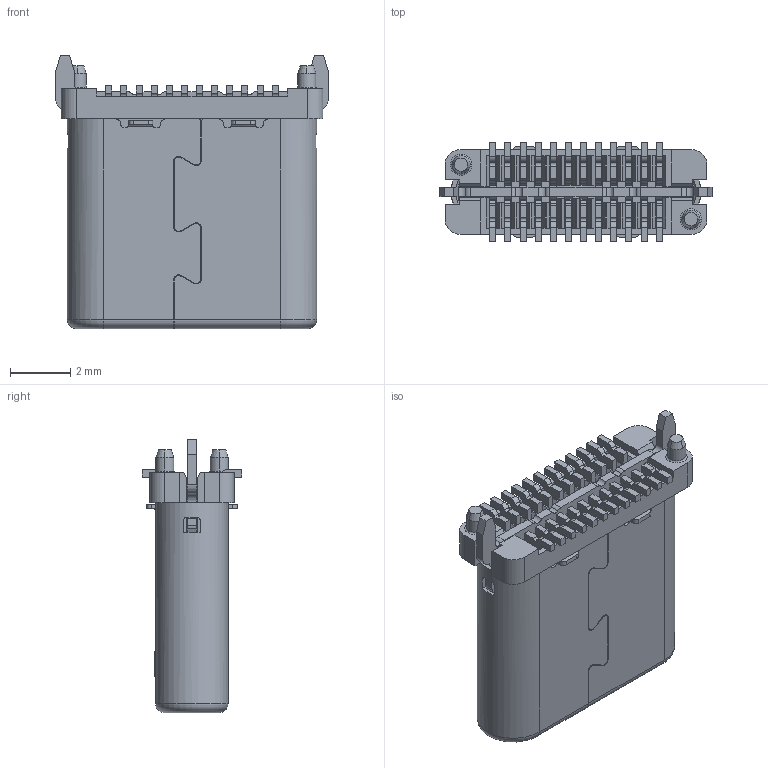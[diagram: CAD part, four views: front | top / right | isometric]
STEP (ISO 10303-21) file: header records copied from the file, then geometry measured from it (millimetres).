
FILE_DESCRIPTION (( 'STEP AP214' ), '1' );
FILE_NAME ('PRT0001.STEP', '2026-05-28T09:02:43', ( '' ), ( '' ), 'SwSTEP 2.0', 'SolidWorks 2024', '' );
FILE_SCHEMA (( 'AUTOMOTIVE_DESIGN' ));
Length unit declared in the file: millimetre
Products named in the file (1): PRT0001
Bounding box: 9 x 3.29 x 9.04 mm (x, y, z)
Volume: 103.2 mm3; surface area: 907.3 mm2
Topology: 1 solids, 1 shells, 1819 faces, 5738 edges, 3770 vertices
Faces by surface type: plane 1005, cylinder 758, bspline 25, cone 17, torus 14
Entity records: 65890 total; most frequent: CARTESIAN_POINT 14298, ORIENTED_EDGE 11476, DIRECTION 10325, EDGE_CURVE 5738, VECTOR 3907, LINE 3907, VERTEX_POINT 3770, AXIS2_PLACEMENT_3D 3209
